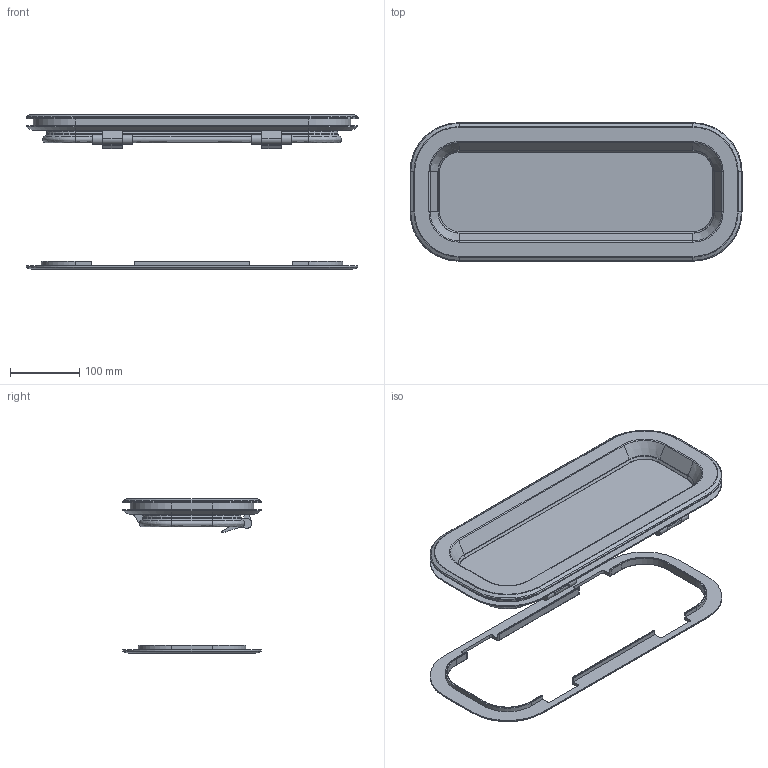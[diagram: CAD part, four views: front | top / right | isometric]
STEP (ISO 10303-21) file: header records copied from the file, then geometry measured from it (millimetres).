
FILE_DESCRIPTION((''),'2;1');
FILE_NAME('LEWMAR_PORTLIGHT_ATLANTIC_40_ASM','2008-02-29T',('skennedy'),(''),'PRO/ENGINEER BY PARAMETRIC TECHNOLOGY CORPORATION, 2007030','PRO/ENGINEER BY PARAMETRIC TECHNOLOGY CORPORATION, 2007030','');
FILE_SCHEMA(('CONFIG_CONTROL_DESIGN'));
Length unit declared in the file: millimetre
Products named in the file (7): 40_OUTER_FRAME; 40_THIN_VALANCE; 40_ACRYLIC_FRAME; ATLANTIC_PORTLIGHT_HANDLE; 40_THICK_VALANCE; 40_ACRYLIC; LEWMAR_PORTLIGHT_ATLANTIC_40_ASM
Assembly tree (7 placements, depth 2):
  LEWMAR_PORTLIGHT_ATLANTIC_40_ASM
    40_OUTER_FRAME
    40_THIN_VALANCE
    40_ACRYLIC_FRAME
    ATLANTIC_PORTLIGHT_HANDLE  x2
    40_THICK_VALANCE
    40_ACRYLIC
Bounding box: 480.13 x 200 x 224 mm (x, y, z)
Volume: 1532799.5 mm3; surface area: 460033.5 mm2
Topology: 7 solids, 7 shells, 900 faces, 2286 edges, 1456 vertices
Faces by surface type: plane 482, cylinder 208, bspline 174, cone 36
Entity records: 30899 total; most frequent: CARTESIAN_POINT 10435, ORIENTED_EDGE 4380, DIRECTION 3894, EDGE_CURVE 2190, VECTOR 1426, LINE 1426, VERTEX_POINT 1392, AXIS2_PLACEMENT_3D 1234
